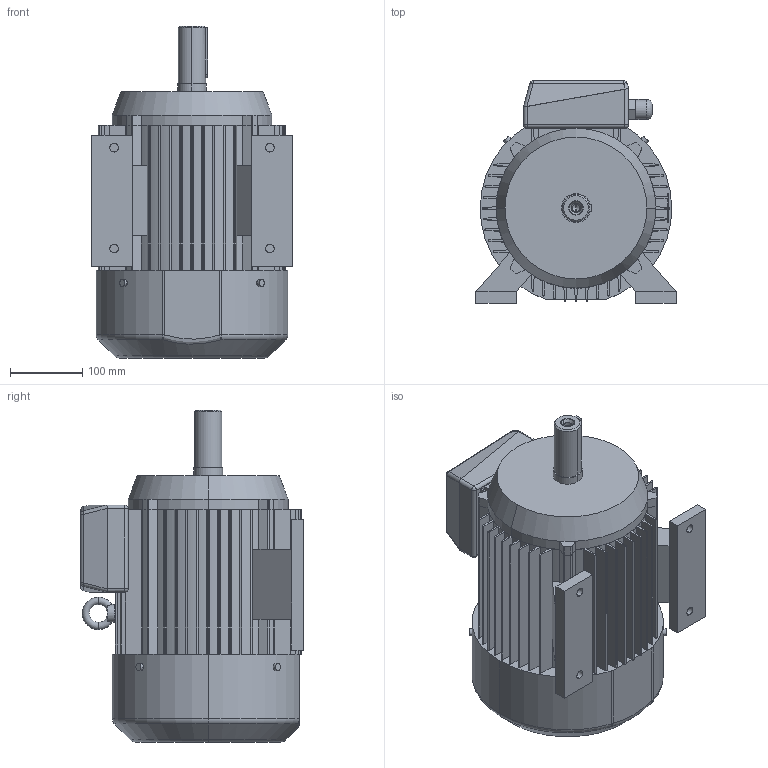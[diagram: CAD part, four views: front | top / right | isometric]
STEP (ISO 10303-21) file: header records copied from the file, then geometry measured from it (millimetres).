
FILE_DESCRIPTION (( 'STEP AP203' ), '1' );
FILE_NAME ('Sg 132S-B3.STEP', '2010-01-18T12:58:10', ( 'Wies³aw Korczyk' ), ( 'Cantoni Group' ), 'SwSTEP 2.0', 'SolidWorks 2003064', '' );
FILE_SCHEMA (( 'CONFIG_CONTROL_DESIGN' ));
Length unit declared in the file: millimetre
Products named in the file (1): Sg 132S-B3
Bounding box: 278 x 309 x 461 mm (x, y, z)
Volume: 18490345 mm3; surface area: 971147.2 mm2
Topology: 14 solids, 14 shells, 512 faces, 1362 edges, 871 vertices
Faces by surface type: plane 250, cylinder 182, bspline 43, cone 14, torus 13, sphere 10
Entity records: 19498 total; most frequent: CARTESIAN_POINT 6786, ORIENTED_EDGE 2700, DIRECTION 2566, EDGE_CURVE 1350, VERTEX_POINT 871, AXIS2_PLACEMENT_3D 867, LINE 832, VECTOR 832
